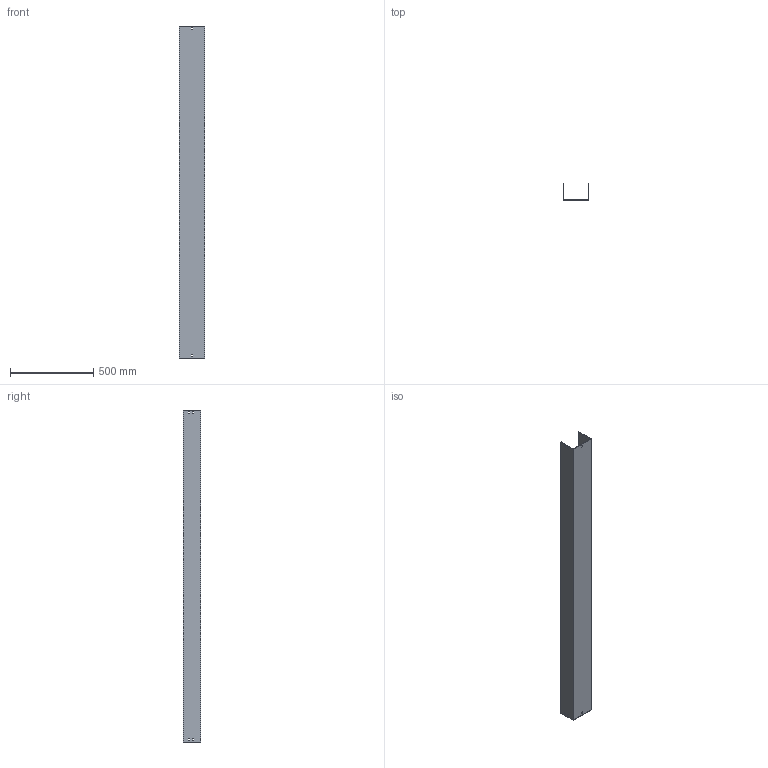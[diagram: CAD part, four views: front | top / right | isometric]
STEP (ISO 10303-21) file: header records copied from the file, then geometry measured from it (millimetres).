
FILE_DESCRIPTION (( 'STEP AP214' ), '1' );
FILE_NAME ('03F2D150.step', '2025-02-21T13:15:48', ( '' ), ( '' ), 'SwSTEP 2.0', 'SolidWorks 2023', '' );
FILE_SCHEMA (( 'AUTOMOTIVE_DESIGN' ));
Length unit declared in the file: millimetre
Products named in the file (1): 03F2D150
Bounding box: 154 x 104 x 2000 mm (x, y, z)
Volume: 2482630.5 mm3; surface area: 1436300 mm2
Topology: 1 solids, 1 shells, 50 faces, 144 edges, 96 vertices
Faces by surface type: plane 50
Entity records: 1671 total; most frequent: CARTESIAN_POINT 291, ORIENTED_EDGE 288, DIRECTION 246, LINE 144, EDGE_CURVE 144, VECTOR 144, VERTEX_POINT 96, EDGE_LOOP 70
